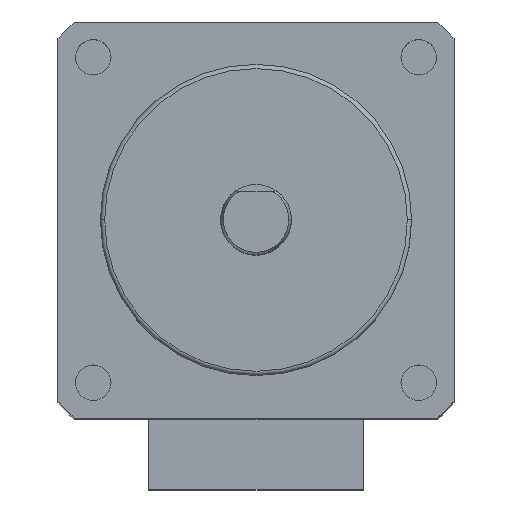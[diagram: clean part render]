
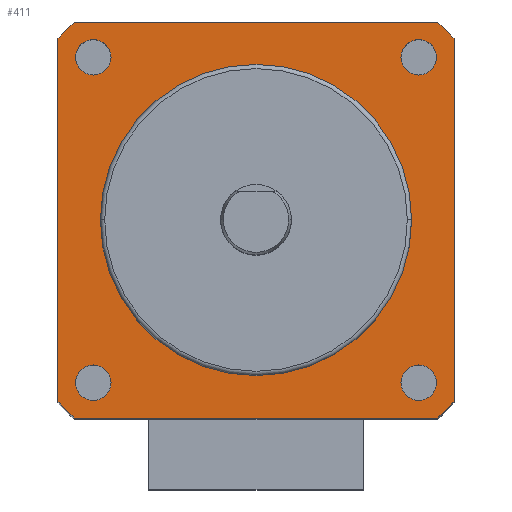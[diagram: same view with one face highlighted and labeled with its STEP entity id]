
A CAD part, top view. The second image highlights one B-rep face of the part: STEP entity #411.
In plain terms, the highlighted planar face has unit normal (0, 0, 1).
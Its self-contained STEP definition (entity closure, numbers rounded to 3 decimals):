
#5 = EDGE_CURVE ( 'NONE', #779, #247, #653, .T. ) ;
#23 = ORIENTED_EDGE ( 'NONE', *, *, #533, .F. ) ;
#25 = CARTESIAN_POINT ( 'NONE',  ( -14., -12.845, 0. ) ) ;
#33 = DIRECTION ( 'NONE',  ( 0., 1., 0. ) ) ;
#34 = CARTESIAN_POINT ( 'NONE',  ( 12.75, -11.5, 0. ) ) ;
#35 = EDGE_CURVE ( 'NONE', #923, #603, #1085, .T. ) ;
#36 = CARTESIAN_POINT ( 'NONE',  ( 14., 0., 0. ) ) ;
#37 = AXIS2_PLACEMENT_3D ( 'NONE', #686, #1121, #1056 ) ;
#40 = LINE ( 'NONE', #36, #297 ) ;
#60 = PLANE ( 'NONE',  #198 ) ;
#102 = LINE ( 'NONE', #1173, #355 ) ;
#109 = CARTESIAN_POINT ( 'NONE',  ( 10.25, 11.5, 0. ) ) ;
#122 = DIRECTION ( 'NONE',  ( -1., 0., 0. ) ) ;
#123 = DIRECTION ( 'NONE',  ( 0., 0., -1. ) ) ;
#124 = DIRECTION ( 'NONE',  ( 0., 0., -1. ) ) ;
#128 = CARTESIAN_POINT ( 'NONE',  ( -10.25, 11.5, 0. ) ) ;
#133 = AXIS2_PLACEMENT_3D ( 'NONE', #715, #606, #466 ) ;
#146 = CARTESIAN_POINT ( 'NONE',  ( 0., 0., 0. ) ) ;
#160 = EDGE_CURVE ( 'NONE', #465, #349, #546, .T. ) ;
#162 = CARTESIAN_POINT ( 'NONE',  ( -12.75, -11.5, 0. ) ) ;
#175 = AXIS2_PLACEMENT_3D ( 'NONE', #584, #437, #295 ) ;
#198 = AXIS2_PLACEMENT_3D ( 'NONE', #284, #824, #554 ) ;
#201 = FACE_OUTER_BOUND ( 'NONE', #275, .T. ) ;
#209 = DIRECTION ( 'NONE',  ( -1., 0., 0. ) ) ;
#210 = DIRECTION ( 'NONE',  ( 0., 0., -1. ) ) ;
#212 = CARTESIAN_POINT ( 'NONE',  ( 0., 0., 0. ) ) ;
#221 = FACE_BOUND ( 'NONE', #742, .T. ) ;
#225 = VERTEX_POINT ( 'NONE', #162 ) ;
#227 = CARTESIAN_POINT ( 'NONE',  ( -11.5, -11.5, 0. ) ) ;
#238 = VERTEX_POINT ( 'NONE', #128 ) ;
#242 = EDGE_CURVE ( 'NONE', #873, #969, #648, .T. ) ;
#247 = VERTEX_POINT ( 'NONE', #109 ) ;
#252 = DIRECTION ( 'NONE',  ( 1., 0., 0. ) ) ;
#254 = FACE_BOUND ( 'NONE', #910, .T. ) ;
#263 = ORIENTED_EDGE ( 'NONE', *, *, #886, .F. ) ;
#270 = CARTESIAN_POINT ( 'NONE',  ( 0., 0., 0. ) ) ;
#271 = CARTESIAN_POINT ( 'NONE',  ( 12.845, 14., 0. ) ) ;
#275 = EDGE_LOOP ( 'NONE', ( #363, #566, #306, #708, #413, #469, #531, #638 ) ) ;
#284 = CARTESIAN_POINT ( 'NONE',  ( 0., 0., 0. ) ) ;
#295 = DIRECTION ( 'NONE',  ( 1., 0., 0. ) ) ;
#297 = VECTOR ( 'NONE', #33, 1000. ) ;
#306 = ORIENTED_EDGE ( 'NONE', *, *, #1185, .T. ) ;
#312 = ORIENTED_EDGE ( 'NONE', *, *, #792, .F. ) ;
#313 = VECTOR ( 'NONE', #252, 1000. ) ;
#320 = FACE_BOUND ( 'NONE', #568, .T. ) ;
#322 = EDGE_LOOP ( 'NONE', ( #312, #435 ) ) ;
#341 = DIRECTION ( 'NONE',  ( -1., 0., 0. ) ) ;
#345 = EDGE_CURVE ( 'NONE', #923, #461, #40, .T. ) ;
#346 = DIRECTION ( 'NONE',  ( 0., 0., -1. ) ) ;
#349 = VERTEX_POINT ( 'NONE', #25 ) ;
#353 = CARTESIAN_POINT ( 'NONE',  ( -11.5, 11.5, 0. ) ) ;
#355 = VECTOR ( 'NONE', #1103, 1000. ) ;
#361 = CARTESIAN_POINT ( 'NONE',  ( 0., 0., 0. ) ) ;
#363 = ORIENTED_EDGE ( 'NONE', *, *, #1078, .F. ) ;
#386 = DIRECTION ( 'NONE',  ( 1., 0., 0. ) ) ;
#388 = FACE_BOUND ( 'NONE', #322, .T. ) ;
#394 = CARTESIAN_POINT ( 'NONE',  ( 0., 14., 0. ) ) ;
#401 = CARTESIAN_POINT ( 'NONE',  ( 14., -12.845, 0. ) ) ;
#404 = DIRECTION ( 'NONE',  ( 1., 0., 0. ) ) ;
#405 = DIRECTION ( 'NONE',  ( 0., 0., 1. ) ) ;
#406 = CARTESIAN_POINT ( 'NONE',  ( 11.5, 11.5, 0. ) ) ;
#411 = ADVANCED_FACE ( 'NONE', ( #320, #388, #254, #221, #201 ), #60, .F. ) ;
#413 = ORIENTED_EDGE ( 'NONE', *, *, #345, .T. ) ;
#421 = CARTESIAN_POINT ( 'NONE',  ( 12.845, -14., 0. ) ) ;
#425 = CARTESIAN_POINT ( 'NONE',  ( -12.845, -14., 0. ) ) ;
#435 = ORIENTED_EDGE ( 'NONE', *, *, #1096, .F. ) ;
#437 = DIRECTION ( 'NONE',  ( 0., 0., 1. ) ) ;
#461 = VERTEX_POINT ( 'NONE', #504 ) ;
#465 = VERTEX_POINT ( 'NONE', #425 ) ;
#466 = DIRECTION ( 'NONE',  ( 1., 0., 0. ) ) ;
#469 = ORIENTED_EDGE ( 'NONE', *, *, #989, .F. ) ;
#482 = AXIS2_PLACEMENT_3D ( 'NONE', #270, #124, #1182 ) ;
#492 = ORIENTED_EDGE ( 'NONE', *, *, #1133, .F. ) ;
#504 = CARTESIAN_POINT ( 'NONE',  ( 14., 12.845, 0. ) ) ;
#527 = DIRECTION ( 'NONE',  ( 0., 0., 1. ) ) ;
#531 = ORIENTED_EDGE ( 'NONE', *, *, #1159, .F. ) ;
#533 = EDGE_CURVE ( 'NONE', #864, #753, #1084, .T. ) ;
#535 = LINE ( 'NONE', #394, #313 ) ;
#540 = ORIENTED_EDGE ( 'NONE', *, *, #633, .F. ) ;
#546 = CIRCLE ( 'NONE', #802, 19. ) ;
#554 = DIRECTION ( 'NONE',  ( -1., 0., 0. ) ) ;
#566 = ORIENTED_EDGE ( 'NONE', *, *, #160, .F. ) ;
#568 = EDGE_LOOP ( 'NONE', ( #23, #263 ) ) ;
#584 = CARTESIAN_POINT ( 'NONE',  ( 11.5, 11.5, 0. ) ) ;
#593 = ORIENTED_EDGE ( 'NONE', *, *, #891, .F. ) ;
#603 = VERTEX_POINT ( 'NONE', #421 ) ;
#606 = DIRECTION ( 'NONE',  ( 0., 0., 1. ) ) ;
#613 = VECTOR ( 'NONE', #982, 1000. ) ;
#633 = EDGE_CURVE ( 'NONE', #928, #238, #968, .T. ) ;
#638 = ORIENTED_EDGE ( 'NONE', *, *, #242, .F. ) ;
#648 = CIRCLE ( 'NONE', #866, 19. ) ;
#653 = CIRCLE ( 'NONE', #828, 1.25 ) ;
#654 = CARTESIAN_POINT ( 'NONE',  ( 10.25, -11.5, 0. ) ) ;
#656 = AXIS2_PLACEMENT_3D ( 'NONE', #672, #527, #386 ) ;
#666 = AXIS2_PLACEMENT_3D ( 'NONE', #353, #1077, #1005 ) ;
#672 = CARTESIAN_POINT ( 'NONE',  ( -11.5, -11.5, 0. ) ) ;
#686 = CARTESIAN_POINT ( 'NONE',  ( -11.5, 11.5, 0. ) ) ;
#697 = VERTEX_POINT ( 'NONE', #271 ) ;
#698 = CARTESIAN_POINT ( 'NONE',  ( 11.5, -11.5, 0. ) ) ;
#708 = ORIENTED_EDGE ( 'NONE', *, *, #35, .F. ) ;
#715 = CARTESIAN_POINT ( 'NONE',  ( 11.5, -11.5, 0. ) ) ;
#717 = VERTEX_POINT ( 'NONE', #1059 ) ;
#724 = DIRECTION ( 'NONE',  ( 1., 0., 0. ) ) ;
#742 = EDGE_LOOP ( 'NONE', ( #492, #540 ) ) ;
#753 = VERTEX_POINT ( 'NONE', #654 ) ;
#764 = CARTESIAN_POINT ( 'NONE',  ( -12.845, 14., 0. ) ) ;
#779 = VERTEX_POINT ( 'NONE', #1127 ) ;
#792 = EDGE_CURVE ( 'NONE', #717, #225, #867, .T. ) ;
#802 = AXIS2_PLACEMENT_3D ( 'NONE', #212, #210, #209 ) ;
#807 = CIRCLE ( 'NONE', #482, 19. ) ;
#824 = DIRECTION ( 'NONE',  ( 0., 0., -1. ) ) ;
#828 = AXIS2_PLACEMENT_3D ( 'NONE', #406, #405, #404 ) ;
#864 = VERTEX_POINT ( 'NONE', #34 ) ;
#866 = AXIS2_PLACEMENT_3D ( 'NONE', #146, #123, #122 ) ;
#867 = CIRCLE ( 'NONE', #1013, 1.25 ) ;
#870 = DIRECTION ( 'NONE',  ( 0., 0., 1. ) ) ;
#873 = VERTEX_POINT ( 'NONE', #1140 ) ;
#886 = EDGE_CURVE ( 'NONE', #753, #864, #1163, .T. ) ;
#891 = EDGE_CURVE ( 'NONE', #247, #779, #995, .T. ) ;
#909 = CIRCLE ( 'NONE', #666, 1.25 ) ;
#910 = EDGE_LOOP ( 'NONE', ( #1183, #593 ) ) ;
#923 = VERTEX_POINT ( 'NONE', #401 ) ;
#928 = VERTEX_POINT ( 'NONE', #1033 ) ;
#968 = CIRCLE ( 'NONE', #37, 1.25 ) ;
#969 = VERTEX_POINT ( 'NONE', #764 ) ;
#982 = DIRECTION ( 'NONE',  ( 0., 1., 0. ) ) ;
#989 = EDGE_CURVE ( 'NONE', #697, #461, #807, .T. ) ;
#995 = CIRCLE ( 'NONE', #175, 1.25 ) ;
#1005 = DIRECTION ( 'NONE',  ( 1., 0., 0. ) ) ;
#1013 = AXIS2_PLACEMENT_3D ( 'NONE', #227, #1055, #1120 ) ;
#1019 = AXIS2_PLACEMENT_3D ( 'NONE', #698, #870, #724 ) ;
#1027 = AXIS2_PLACEMENT_3D ( 'NONE', #361, #346, #341 ) ;
#1033 = CARTESIAN_POINT ( 'NONE',  ( -12.75, 11.5, 0. ) ) ;
#1055 = DIRECTION ( 'NONE',  ( 0., 0., 1. ) ) ;
#1056 = DIRECTION ( 'NONE',  ( 1., 0., 0. ) ) ;
#1059 = CARTESIAN_POINT ( 'NONE',  ( -10.25, -11.5, 0. ) ) ;
#1064 = CIRCLE ( 'NONE', #656, 1.25 ) ;
#1065 = CARTESIAN_POINT ( 'NONE',  ( -14., 0., 0. ) ) ;
#1077 = DIRECTION ( 'NONE',  ( 0., 0., 1. ) ) ;
#1078 = EDGE_CURVE ( 'NONE', #349, #873, #1129, .T. ) ;
#1084 = CIRCLE ( 'NONE', #133, 1.25 ) ;
#1085 = CIRCLE ( 'NONE', #1027, 19. ) ;
#1096 = EDGE_CURVE ( 'NONE', #225, #717, #1064, .T. ) ;
#1103 = DIRECTION ( 'NONE',  ( 1., 0., 0. ) ) ;
#1120 = DIRECTION ( 'NONE',  ( 1., 0., 0. ) ) ;
#1121 = DIRECTION ( 'NONE',  ( 0., 0., 1. ) ) ;
#1127 = CARTESIAN_POINT ( 'NONE',  ( 12.75, 11.5, 0. ) ) ;
#1129 = LINE ( 'NONE', #1065, #613 ) ;
#1133 = EDGE_CURVE ( 'NONE', #238, #928, #909, .T. ) ;
#1140 = CARTESIAN_POINT ( 'NONE',  ( -14., 12.845, 0. ) ) ;
#1159 = EDGE_CURVE ( 'NONE', #969, #697, #535, .T. ) ;
#1163 = CIRCLE ( 'NONE', #1019, 1.25 ) ;
#1173 = CARTESIAN_POINT ( 'NONE',  ( 0., -14., 0. ) ) ;
#1182 = DIRECTION ( 'NONE',  ( -1., 0., 0. ) ) ;
#1183 = ORIENTED_EDGE ( 'NONE', *, *, #5, .F. ) ;
#1185 = EDGE_CURVE ( 'NONE', #465, #603, #102, .T. ) ;
